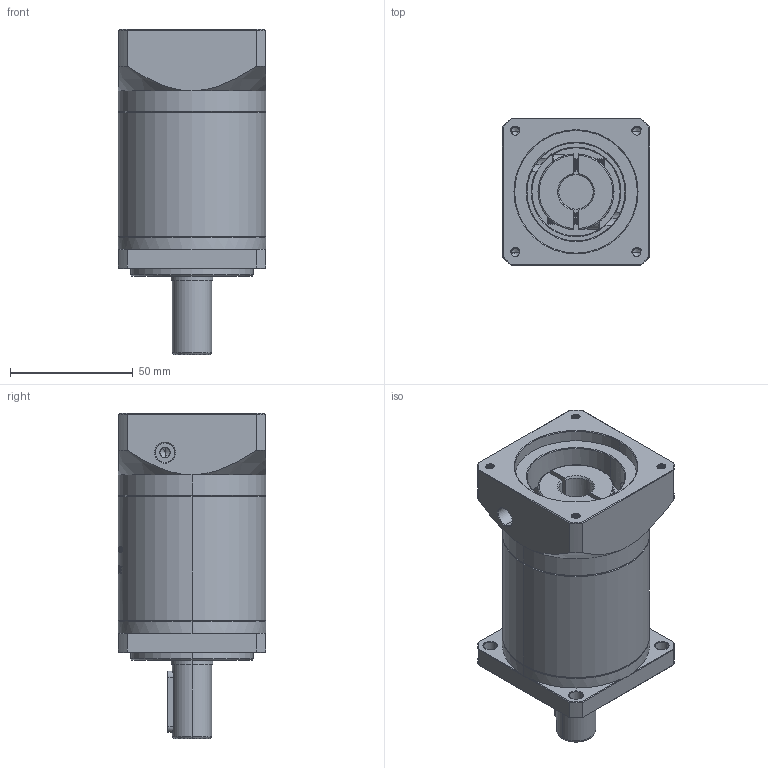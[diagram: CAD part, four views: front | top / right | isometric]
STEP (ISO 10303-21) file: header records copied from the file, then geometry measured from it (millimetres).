
FILE_DESCRIPTION (( 'STEP AP214' ), '1' );
FILE_NAME ('ZF060-D16-L2-P2-14-50-70-M4.step', '2023-08-16T04:27:09', ( '' ), ( '' ), 'SwSTEP 2.0', 'SolidWorks 2016', '' );
FILE_SCHEMA (( 'AUTOMOTIVE_DESIGN' ));
Length unit declared in the file: millimetre
Products named in the file (1): ZF060-D16-L2-P2-14-50-70-M4
Bounding box: 60 x 60 x 132.5 mm (x, y, z)
Volume: 271861 mm3; surface area: 47167.7 mm2
Topology: 6 solids, 6 shells, 1734 faces, 4694 edges, 3043 vertices
Faces by surface type: plane 794, bspline 354, cylinder 332, cone 236, torus 18
Entity records: 96247 total; most frequent: CARTESIAN_POINT 37708, ORIENTED_EDGE 9360, DIRECTION 6704, EDGE_CURVE 4680, VERTEX_POINT 3043, VECTOR 2372, LINE 2372, AXIS2_PLACEMENT_3D 2166
